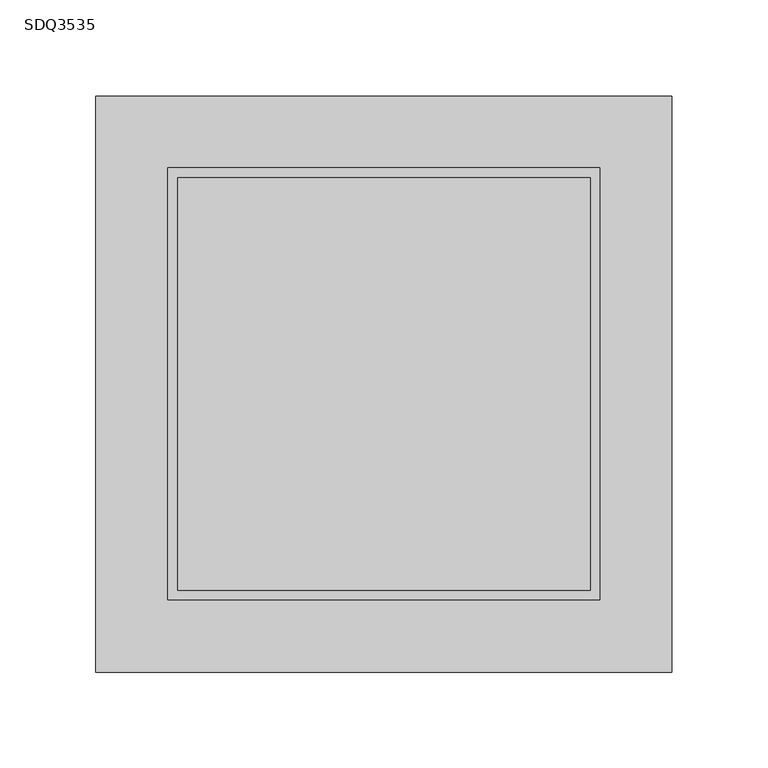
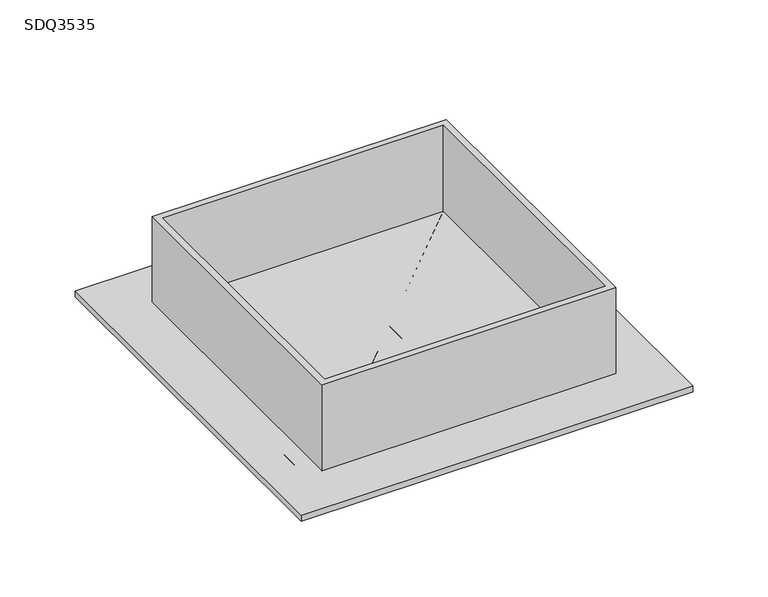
"""IFC4 building model written with IfcOpenShell, lengths in millimetres: air terminal geometry, 11 - Difusor Quadrado : SDQ3535."""

from ifc_helpers import new_model, si_unit, frame, origin, origin_with_axes, place, context, project, spatial, polyline, outline, extrude, source, transform, mapped, element, save


def sdq3535_a75e83f7(model_context):
    return source(origin(), model_context, "Body", "SweptSolid", [
        extrude(outline(polyline([(150.0, 150.0), (150.0, -150.0), (-150.0, -150.0), (-150.0, 150.0), (150.0, 150.0)])), origin_with_axes(), (0.0, 0.0, 1.0), 5.0),
        extrude(outline(polyline([(112.5, 112.5), (112.5, -112.5), (-112.5, -112.5), (-112.5, 112.5), (112.5, 112.5)]), holes=[polyline([(107.5, 107.5), (-107.5, 107.5), (-107.5, -107.5), (107.5, -107.5), (107.5, 107.5)])]), frame((0.0, 0.0, 5.0), z_axis=(0.0, 0.0, 1.0), x_axis=(1.0, 0.0, 0.0)), (0.0, 0.0, 1.0), 70.0),
        extrude(outline(polyline([(125.0, 125.0), (125.0, -125.0), (-125.0, -125.0), (-125.0, 125.0), (125.0, 125.0)])), origin_with_axes(), (0.0, 0.0, 1.0), 5.0),
        extrude(outline(polyline([(100.0, 100.0), (100.0, -100.0), (-100.0, -100.0), (-100.0, 100.0), (100.0, 100.0)])), origin_with_axes(), (0.0, 0.0, 1.0), 5.0),
        extrude(outline(polyline([(75.0, 75.0), (75.0, -75.0), (-75.0, -75.0), (-75.0, 75.0), (75.0, 75.0)])), origin_with_axes(), (0.0, 0.0, 1.0), 5.0),
        extrude(outline(polyline([(50.0, 50.0), (50.0, -50.0), (-50.0, -50.0), (-50.0, 50.0), (50.0, 50.0)])), origin_with_axes(), (0.0, 0.0, 1.0), 5.0),
        extrude(outline(polyline([(10.0, 10.0), (10.0, -10.0), (-10.0, -10.0), (-10.0, 10.0), (10.0, 10.0)])), origin_with_axes(), (0.0, 0.0, 1.0), 5.0),
        extrude(outline(polyline([(10.0, 10.0), (125.0, 125.0), (125.0, -125.0), (10.0, -10.0), (10.0, 10.0)])), origin_with_axes(), (0.0, 0.0, 1.0), 5.0),
        extrude(outline(polyline([(-10.0, 10.0), (-10.0, -10.0), (-125.0, -125.0), (-125.0, 125.0), (-10.0, 10.0)])), origin_with_axes(), (0.0, 0.0, 1.0), 5.0),
        extrude(outline(polyline([(125.0, 125.0), (10.0, 10.0), (-10.0, 10.0), (-125.0, 125.0), (125.0, 125.0)])), origin_with_axes(), (0.0, 0.0, 1.0), 5.0),
        extrude(outline(polyline([(125.0, -125.0), (-125.0, -125.0), (-10.0, -10.0), (10.0, -10.0), (125.0, -125.0)])), origin_with_axes(), (0.0, 0.0, 1.0), 5.0),
    ])


if __name__ == "__main__":
    model = new_model("IFC4")
    model_context = context("Model", 3, world=origin())
    ifc_project = project(units=[si_unit("LENGTHUNIT", "METRE", prefix="MILLI")], contexts=[model_context])
    site = spatial("IfcSite", under=ifc_project)
    building = spatial("IfcBuilding", under=site)
    placement = place(None, origin())
    sdq3535_shape = sdq3535_a75e83f7(model_context)
    element("IfcAirTerminal", 1, ObjectType="11 - Difusor Quadrado : SDQ3535", at=placement, inside=building, context=model_context, shape_type="MappedRepresentation", body=[
        mapped(sdq3535_shape, transform((0.0, 0.0, 0.0), x_axis=(1.0, 0.0, 0.0), y_axis=(0.0, 1.0, 0.0), z_axis=(0.0, 0.0, 1.0))),
    ])
    save(model, "model.ifc")
